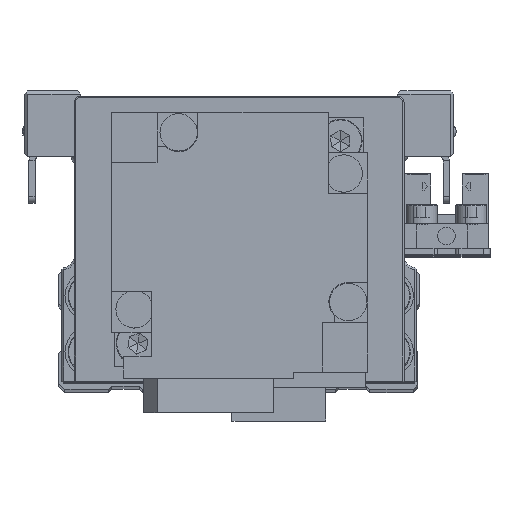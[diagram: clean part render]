
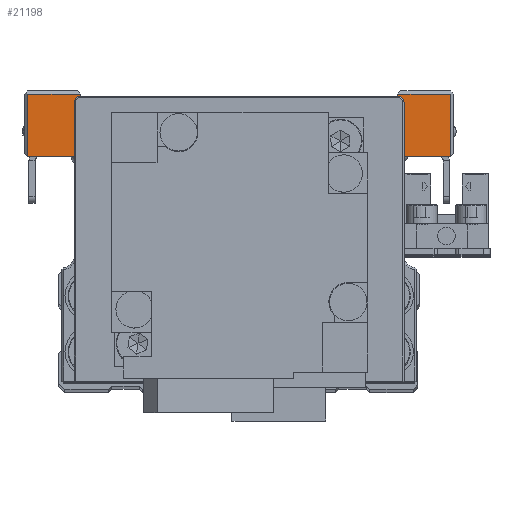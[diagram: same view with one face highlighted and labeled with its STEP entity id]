
A CAD part, top view. The second image highlights one B-rep face of the part: STEP entity #21198.
In plain terms, the highlighted planar face has unit normal (0, 0, 1) as drawn and (1, 0, 0) by its records, which use the part's own axes.
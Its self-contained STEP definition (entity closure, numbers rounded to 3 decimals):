
#60 = VECTOR ( 'NONE', #18259, 1000. ) ;
#217 = ORIENTED_EDGE ( 'NONE', *, *, #21978, .F. ) ;
#33674 = ORIENTED_EDGE ( 'NONE', *, *, #4160, .T. ) ;
#655 = DIRECTION ( 'NONE',  ( 0., 1., 0. ) ) ;
#790 = CARTESIAN_POINT ( 'NONE',  ( 25.5, 5., 34. ) ) ;
#880 = LINE ( 'NONE', #11260, #9896 ) ;
#929 = LINE ( 'NONE', #11315, #8364 ) ;
#1078 = EDGE_CURVE ( 'NONE', #26227, #9346, #25405, .T. ) ;
#1215 = CARTESIAN_POINT ( 'NONE',  ( 25.5, -6., 16.2 ) ) ;
#1669 = CARTESIAN_POINT ( 'NONE',  ( 25.5, 15., -25.5 ) ) ;
#1948 = VERTEX_POINT ( 'NONE', #1669 ) ;
#2138 = VERTEX_POINT ( 'NONE', #13203 ) ;
#3158 = LINE ( 'NONE', #13539, #12928 ) ;
#3449 = ORIENTED_EDGE ( 'NONE', *, *, #30411, .F. ) ;
#3890 = DIRECTION ( 'NONE',  ( 0., 0., 1. ) ) ;
#3998 = VERTEX_POINT ( 'NONE', #14317 ) ;
#4160 = EDGE_CURVE ( 'NONE', #26227, #2138, #10046, .T. ) ;
#4293 = VERTEX_POINT ( 'NONE', #10876 ) ;
#4326 = EDGE_CURVE ( 'NONE', #26525, #1948, #13591, .T. ) ;
#4523 = CARTESIAN_POINT ( 'NONE',  ( 25.5, 5., -34.5 ) ) ;
#4576 = CARTESIAN_POINT ( 'NONE',  ( 25.5, 10.5, 25.5 ) ) ;
#4739 = EDGE_CURVE ( 'NONE', #17447, #16890, #929, .T. ) ;
#4910 = CARTESIAN_POINT ( 'NONE',  ( 25.5, 15., -34. ) ) ;
#5191 = CARTESIAN_POINT ( 'NONE',  ( 25.5, 10.5, 25.5 ) ) ;
#5210 = VERTEX_POINT ( 'NONE', #16538 ) ;
#5749 = EDGE_CURVE ( 'NONE', #16890, #1948, #16833, .T. ) ;
#6323 = EDGE_CURVE ( 'NONE', #24482, #12491, #27850, .T. ) ;
#6464 = LINE ( 'NONE', #16838, #28962 ) ;
#6771 = CARTESIAN_POINT ( 'NONE',  ( 25.5, 10.5, -25.5 ) ) ;
#6885 = CARTESIAN_POINT ( 'NONE',  ( 25.5, 10.5, -25.5 ) ) ;
#7662 = DIRECTION ( 'NONE',  ( -1., 0., 0. ) ) ;
#7867 = CARTESIAN_POINT ( 'NONE',  ( 25.5, 5., -16.5 ) ) ;
#7868 = EDGE_LOOP ( 'NONE', ( #28159, #11782, #8113, #20611, #18564, #19699, #10343, #33674, #3449, #14584, #26993, #18606, #14228, #217 ) ) ;
#8113 = ORIENTED_EDGE ( 'NONE', *, *, #9841, .T. ) ;
#8364 = VECTOR ( 'NONE', #21707, 1000. ) ;
#8753 = VECTOR ( 'NONE', #3890, 1000. ) ;
#9346 = VERTEX_POINT ( 'NONE', #26185 ) ;
#9351 = CARTESIAN_POINT ( 'NONE',  ( 25.5, 5., -34.5 ) ) ;
#9841 = EDGE_CURVE ( 'NONE', #4293, #24482, #3158, .T. ) ;
#9894 = CARTESIAN_POINT ( 'NONE',  ( 25.5, -6., 16.5 ) ) ;
#9896 = VECTOR ( 'NONE', #21656, 1000. ) ;
#10046 = LINE ( 'NONE', #20427, #18149 ) ;
#10224 = FACE_OUTER_BOUND ( 'NONE', #7868, .T. ) ;
#10343 = ORIENTED_EDGE ( 'NONE', *, *, #1078, .F. ) ;
#10595 = VERTEX_POINT ( 'NONE', #16500 ) ;
#10780 = VERTEX_POINT ( 'NONE', #4576 ) ;
#10876 = CARTESIAN_POINT ( 'NONE',  ( 25.5, 15., 34. ) ) ;
#11260 = CARTESIAN_POINT ( 'NONE',  ( 25.5, 5., 16.5 ) ) ;
#11315 = CARTESIAN_POINT ( 'NONE',  ( 25.5, 5., -34. ) ) ;
#11605 = DIRECTION ( 'NONE',  ( 0., -0.707, -0.707 ) ) ;
#11782 = ORIENTED_EDGE ( 'NONE', *, *, #31975, .T. ) ;
#12491 = VERTEX_POINT ( 'NONE', #32828 ) ;
#12928 = VECTOR ( 'NONE', #23931, 1000. ) ;
#13203 = CARTESIAN_POINT ( 'NONE',  ( 25.5, -5.7, -16.5 ) ) ;
#13539 = CARTESIAN_POINT ( 'NONE',  ( 25.5, 5., 34. ) ) ;
#13591 = LINE ( 'NONE', #23981, #23611 ) ;
#13716 = AXIS2_PLACEMENT_3D ( 'NONE', #31008, #7662, #18048 ) ;
#14228 = ORIENTED_EDGE ( 'NONE', *, *, #4326, .F. ) ;
#14317 = CARTESIAN_POINT ( 'NONE',  ( 25.5, 15., 25.5 ) ) ;
#14362 = VECTOR ( 'NONE', #19749, 1000. ) ;
#14584 = ORIENTED_EDGE ( 'NONE', *, *, #22854, .T. ) ;
#14915 = DIRECTION ( 'NONE',  ( 0., 0., -1. ) ) ;
#15574 = DIRECTION ( 'NONE',  ( 0., 1., 0. ) ) ;
#16081 = VECTOR ( 'NONE', #11605, 1000. ) ;
#16500 = CARTESIAN_POINT ( 'NONE',  ( 25.5, -5.7, 16.5 ) ) ;
#16538 = CARTESIAN_POINT ( 'NONE',  ( 25.5, 5., -16.5 ) ) ;
#16833 = LINE ( 'NONE', #27224, #8753 ) ;
#16838 = CARTESIAN_POINT ( 'NONE',  ( 25.5, 15., 34. ) ) ;
#16890 = VERTEX_POINT ( 'NONE', #4910 ) ;
#17157 = DIRECTION ( 'NONE',  ( 0., 0., -1. ) ) ;
#17447 = VERTEX_POINT ( 'NONE', #23787 ) ;
#17844 = EDGE_CURVE ( 'NONE', #10780, #3998, #28516, .T. ) ;
#18048 = DIRECTION ( 'NONE',  ( 0., 0., 1. ) ) ;
#18149 = VECTOR ( 'NONE', #30831, 1000. ) ;
#18259 = DIRECTION ( 'NONE',  ( 0., -1., 0. ) ) ;
#18564 = ORIENTED_EDGE ( 'NONE', *, *, #24120, .T. ) ;
#18606 = ORIENTED_EDGE ( 'NONE', *, *, #5749, .T. ) ;
#19641 = EDGE_CURVE ( 'NONE', #10595, #9346, #24545, .T. ) ;
#19699 = ORIENTED_EDGE ( 'NONE', *, *, #19641, .T. ) ;
#19738 = VECTOR ( 'NONE', #14915, 1000. ) ;
#19749 = DIRECTION ( 'NONE',  ( 0., 0., -1. ) ) ;
#20278 = DIRECTION ( 'NONE',  ( 0., 0., 1. ) ) ;
#20327 = VECTOR ( 'NONE', #15574, 1000. ) ;
#20427 = CARTESIAN_POINT ( 'NONE',  ( 25.5, -6., -16.2 ) ) ;
#20604 = PLANE ( 'NONE',  #13716 ) ;
#20611 = ORIENTED_EDGE ( 'NONE', *, *, #6323, .T. ) ;
#21198 = ADVANCED_FACE ( 'NONE', ( #10224 ), #20604, .F. ) ;
#21200 = VECTOR ( 'NONE', #20278, 1000. ) ;
#21656 = DIRECTION ( 'NONE',  ( 0., -1., 0. ) ) ;
#21707 = DIRECTION ( 'NONE',  ( 0., 1., 0. ) ) ;
#21978 = EDGE_CURVE ( 'NONE', #10780, #26525, #30105, .T. ) ;
#22854 = EDGE_CURVE ( 'NONE', #5210, #17447, #32710, .T. ) ;
#23126 = CARTESIAN_POINT ( 'NONE',  ( 25.5, -6., -16.2 ) ) ;
#23611 = VECTOR ( 'NONE', #655, 1000. ) ;
#23787 = CARTESIAN_POINT ( 'NONE',  ( 25.5, 5., -34. ) ) ;
#23931 = DIRECTION ( 'NONE',  ( 0., -1., 0. ) ) ;
#23981 = CARTESIAN_POINT ( 'NONE',  ( 25.5, 10.5, -25.5 ) ) ;
#24120 = EDGE_CURVE ( 'NONE', #12491, #10595, #880, .T. ) ;
#24482 = VERTEX_POINT ( 'NONE', #790 ) ;
#24545 = LINE ( 'NONE', #1215, #16081 ) ;
#25405 = LINE ( 'NONE', #9894, #21200 ) ;
#26185 = CARTESIAN_POINT ( 'NONE',  ( 25.5, -6., 16.2 ) ) ;
#26227 = VERTEX_POINT ( 'NONE', #23126 ) ;
#26525 = VERTEX_POINT ( 'NONE', #6885 ) ;
#26993 = ORIENTED_EDGE ( 'NONE', *, *, #4739, .T. ) ;
#27224 = CARTESIAN_POINT ( 'NONE',  ( 25.5, 15., -25.5 ) ) ;
#27230 = DIRECTION ( 'NONE',  ( 0., 0., 1. ) ) ;
#27363 = VECTOR ( 'NONE', #17157, 1000. ) ;
#27850 = LINE ( 'NONE', #4523, #19738 ) ;
#28159 = ORIENTED_EDGE ( 'NONE', *, *, #17844, .T. ) ;
#28516 = LINE ( 'NONE', #5191, #20327 ) ;
#28962 = VECTOR ( 'NONE', #27230, 1000. ) ;
#30105 = LINE ( 'NONE', #6771, #27363 ) ;
#30411 = EDGE_CURVE ( 'NONE', #5210, #2138, #31199, .T. ) ;
#30831 = DIRECTION ( 'NONE',  ( 0., 0.707, -0.707 ) ) ;
#31008 = CARTESIAN_POINT ( 'NONE',  ( 25.5, 5., -16.5 ) ) ;
#31199 = LINE ( 'NONE', #7867, #60 ) ;
#31975 = EDGE_CURVE ( 'NONE', #3998, #4293, #6464, .T. ) ;
#32710 = LINE ( 'NONE', #9351, #14362 ) ;
#32828 = CARTESIAN_POINT ( 'NONE',  ( 25.5, 5., 16.5 ) ) ;
